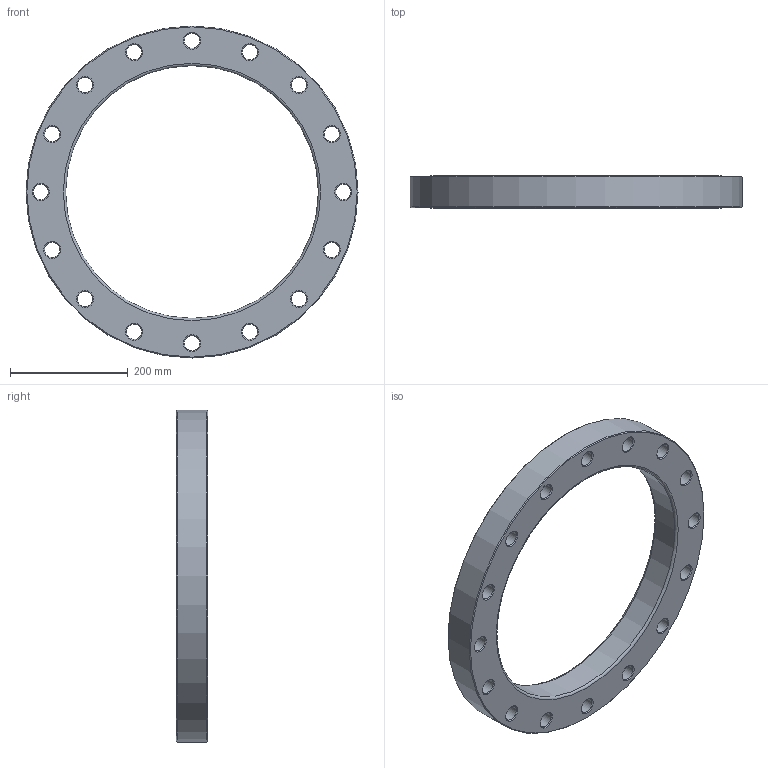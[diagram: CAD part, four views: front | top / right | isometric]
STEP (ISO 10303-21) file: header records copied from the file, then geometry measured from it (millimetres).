
FILE_DESCRIPTION(/* description */ ('Unknown'),/* implementation_level */ '2;1');
FILE_NAME(/* name */ 'FR400B',/* time_stamp */ '2022-07-06T10:27:08+02:00',/* author */ ('Unknown'),/* organization */ ('Unknown'),/* preprocessor_version */ 'ST-DEVELOPER v18.102',/* originating_system */ 'Solid Edge',/* authorisation */ 'Unknown');
FILE_SCHEMA (('AUTOMOTIVE_DESIGN {1 0 10303 214 3 1 1}'));
Length unit declared in the file: millimetre
Products named in the file (1): FR400B
Bounding box: 565 x 54 x 565 mm (x, y, z)
Volume: 5221846.3 mm3; surface area: 423425.6 mm2
Topology: 1 solids, 1 shells, 56 faces, 174 edges, 120 vertices
Faces by surface type: cone 34, cylinder 18, plane 2, torus 2
Full cylindrical faces by diameter (mm): 26 x16, 430 x1, 565 x1
Entity records: 1382 total; most frequent: DIRECTION 258, CARTESIAN_POINT 201, ORIENTED_EDGE 144, EDGE_LOOP 144, FACE_BOUND 144, AXIS2_PLACEMENT_3D 129, EDGE_CURVE 72, VERTEX_POINT 72
